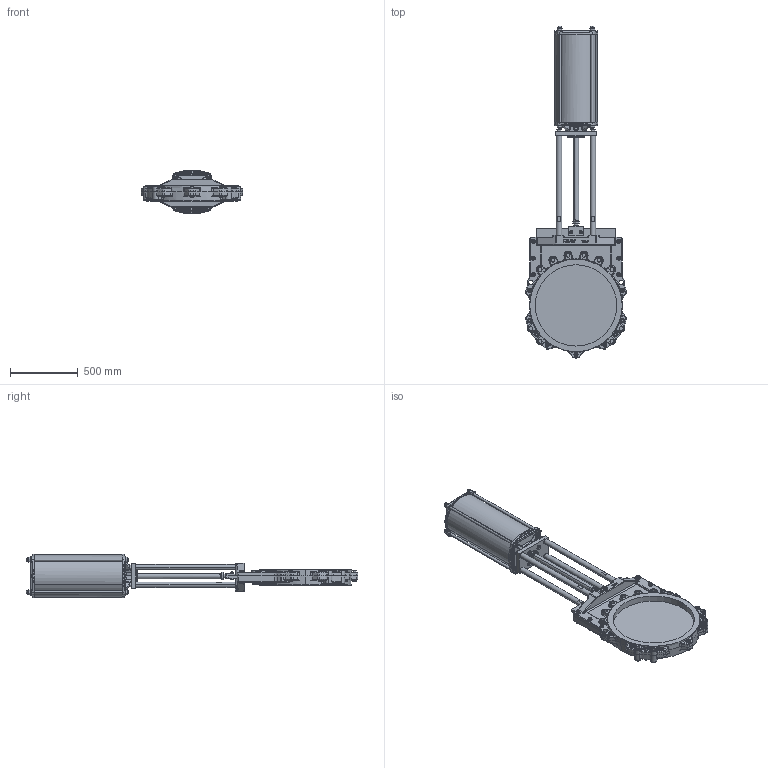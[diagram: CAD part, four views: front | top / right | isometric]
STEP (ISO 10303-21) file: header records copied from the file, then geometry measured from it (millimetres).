
FILE_DESCRIPTION (( 'STEP AP214' ), '1' );
FILE_NAME ('VSC DN 0600.STEP', '2015-09-23T11:17:11', ( 'admin' ), ( 'Hewlett-Packard Company' ), 'SwSTEP 2.0', 'SolidWorks 2013', '' );
FILE_SCHEMA (( 'AUTOMOTIVE_DESIGN' ));
Length unit declared in the file: millimetre
Products named in the file (1): VSC DN 0600
Bounding box: 747.34 x 2450.97 x 320 mm (x, y, z)
Volume: 48695063.2 mm3; surface area: 4812478.7 mm2
Topology: 97 solids, 109 shells, 4281 faces, 9921 edges, 5753 vertices
Faces by surface type: plane 1228, cylinder 1120, cone 804, bspline 710, torus 363, sphere 56
Entity records: 201663 total; most frequent: CARTESIAN_POINT 62865, ORIENTED_EDGE 19336, DIRECTION 18398, EDGE_CURVE 9668, AXIS2_PLACEMENT_3D 7627, VERTEX_POINT 5737, EDGE_LOOP 4617, UNCERTAINTY_MEASURE_WITH_UNIT 4378
